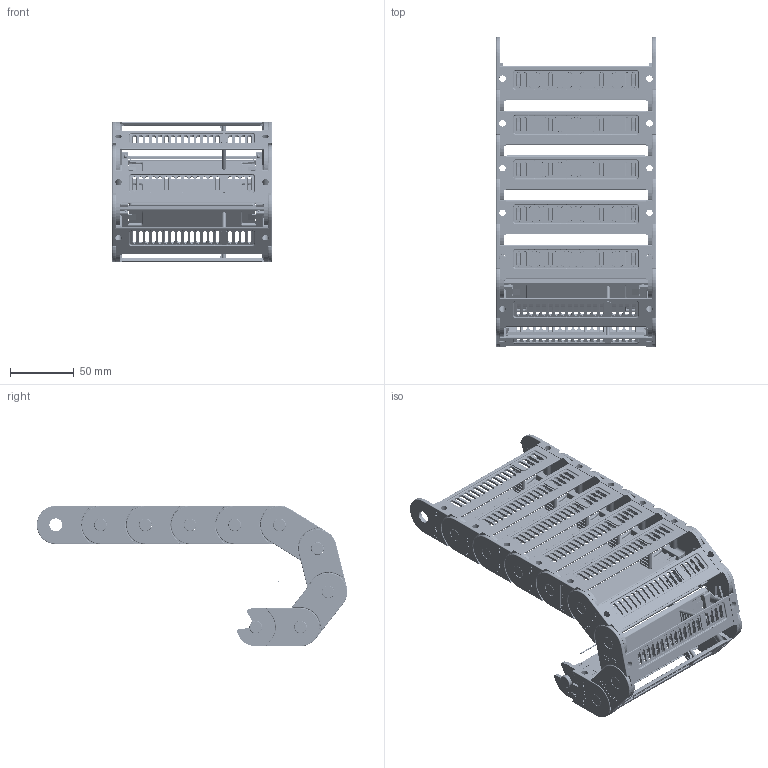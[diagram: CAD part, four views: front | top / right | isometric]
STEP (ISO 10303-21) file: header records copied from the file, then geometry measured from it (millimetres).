
FILE_DESCRIPTION((''),'2;1');
FILE_NAME('C:\Uebbing\PARAMETERKETTEN\KOLIBRI\Kol_30_125_0\Kol 30_125_0_R40.stp','2012-03-05T12:25:35',('Uebbing'),(''),'Autodesk Inventor 10','Autodesk Inventor 10','');
FILE_SCHEMA(('AUTOMOTIVE_DESIGN { 1 0 10303 214 1 1 1 1 }'));
Length unit declared in the file: millimetre
Products named in the file (6): KOLIBRI 30_125_0_PARAMETRISCH; Achse; Kol_30_125_0; PZ 30 Stecksteg; Kol_30_125_0_Klappsteg; Kol 30_125_0 Lasche
Assembly tree (13 placements, depth 3):
  KOLIBRI 30_125_0_PARAMETRISCH
    Achse
    Kol_30_125_0  x9
      PZ 30 Stecksteg
      Kol_30_125_0_Klappsteg
      Kol 30_125_0 Lasche
Bounding box: 125 x 243.06 x 110 mm (x, y, z)
Volume: 212345.5 mm3; surface area: 204883.4 mm2
Topology: 28 solids, 28 shells, 11118 faces, 30226 edges, 19371 vertices
Faces by surface type: plane 5528, cylinder 2764, bspline 1269, torus 1179, cone 324, sphere 54
Full cylindrical faces by diameter (mm): 1 x1, 1.166 x9, 2.048 x9, 2.8 x72, 5.1 x18, 10 x18, 10.1 x18
Entity records: 43044 total; most frequent: CARTESIAN_POINT 12065, ORIENTED_EDGE 6636, DIRECTION 6190, EDGE_CURVE 3318, VERTEX_POINT 2140, AXIS2_PLACEMENT_3D 2106, VECTOR 1978, LINE 1978
